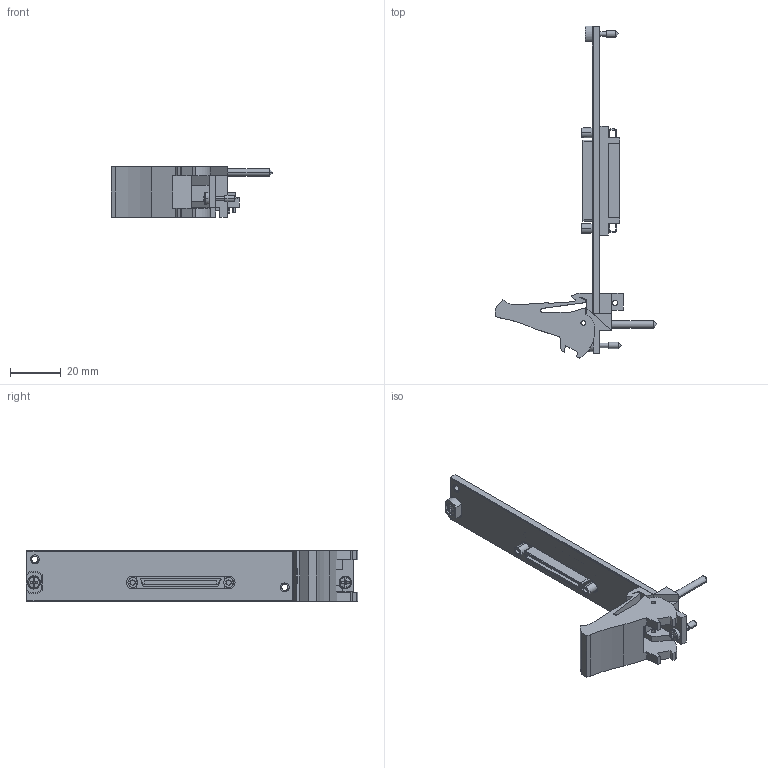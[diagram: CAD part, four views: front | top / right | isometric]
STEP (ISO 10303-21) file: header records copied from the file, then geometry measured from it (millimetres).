
FILE_DESCRIPTION((''),'2;1');
FILE_NAME('CU_PXI-MOD-1X-68POS-VHDCI','2007-09-12T',('chrisj'),(''),'PRO/ENGINEER BY PARAMETRIC TECHNOLOGY CORPORATION, 2006300','PRO/ENGINEER BY PARAMETRIC TECHNOLOGY CORPORATION, 2006300','');
FILE_SCHEMA(('AUTOMOTIVE_DESIGN_CC2 { 1 2 10303 214 -1 1 5 2 }'));
Length unit declared in the file: inch
Products named in the file (1): CU_PXI-MOD-1X-68POS-VHDCI
Bounding box: 63.53 x 130.5 x 20.02 mm (x, y, z)
Volume: 15289.2 mm3; surface area: 13858.3 mm2
Topology: 1 solids, 1 shells, 416 faces, 1116 edges, 723 vertices
Faces by surface type: plane 277, cylinder 113, cone 14, torus 8, sphere 4
Entity records: 13110 total; most frequent: CARTESIAN_POINT 2378, ORIENTED_EDGE 2224, DIRECTION 2223, EDGE_CURVE 1112, VECTOR 799, LINE 799, VERTEX_POINT 723, AXIS2_PLACEMENT_3D 712
